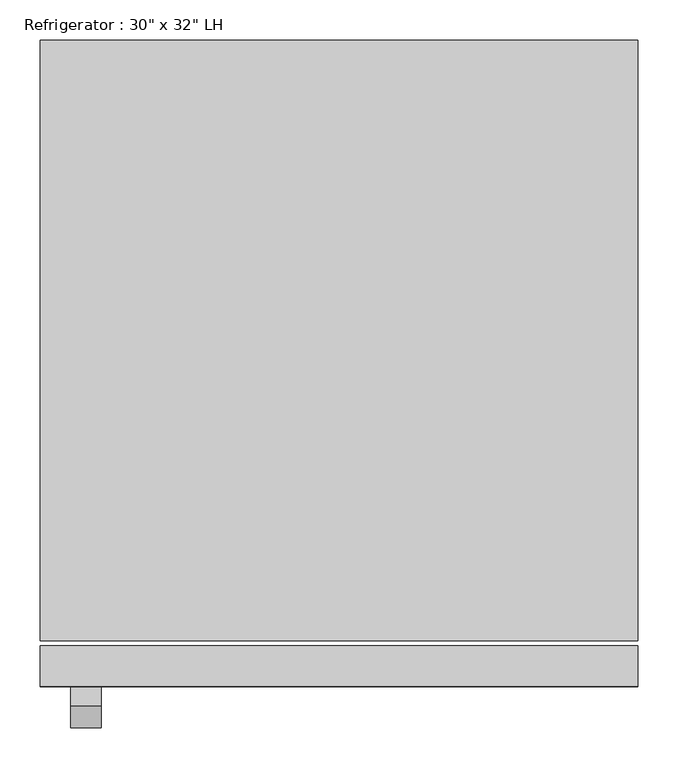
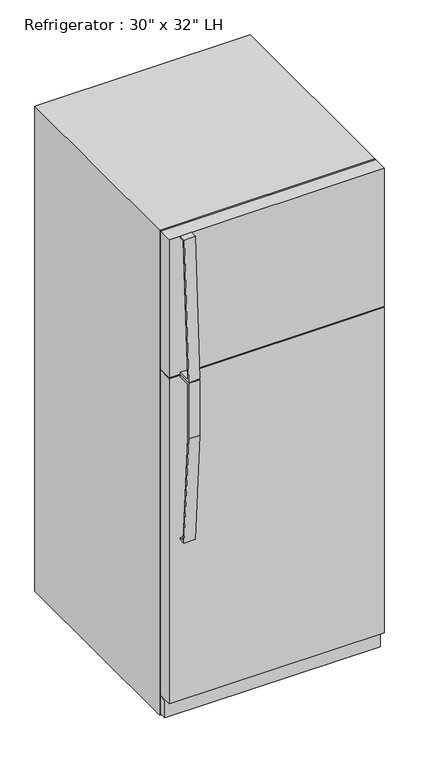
"""IFC4 building model written with IfcOpenShell, lengths in millimetres: proxy geometry."""

from ifc_helpers import new_model, si_unit, frame, origin, origin_with_axes, place, context, project, spatial, polyline, outline, extrude, source, transform, mapped, element, save


def proxy_94da6fa2(model_context):
    return source(origin(), model_context, "Body", "SweptSolid", [
        extrude(outline(polyline([(-417.9010285, 1262.0625), (-462.3510285, 1262.0625), (-462.3510285, 1065.4342469), (-434.8723987, 672.4715334), (-417.9010285, 672.4715334), (-417.9010285, 666.1370017), (-440.7949512, 666.1370017), (-468.7010285, 1065.2125), (-468.7010285, 1268.4125), (-417.9010285, 1268.4125), (-417.9010285, 1262.0625)])), frame((-334.9625, 0.0, 0.0), z_axis=(1.0, 0.0, 0.0), x_axis=(0.0, 1.0, 0.0)), (0.0, 0.0, 1.0), 38.4332978),
        extrude(outline(polyline([(-442.739413, 1778.0), (-418.6780855, 1778.0), (-418.6780855, 1771.65), (-437.5263449, 1771.65), (-463.4007207, 1277.9375), (-418.6780855, 1277.9375), (-418.6780855, 1271.5875), (-469.2793675, 1271.5875), (-442.739413, 1778.0)])), frame((-334.9625, 0.0, 0.0), z_axis=(1.0, 0.0, 0.0), x_axis=(0.0, 1.0, 0.0)), (0.0, 0.0, 1.0), 38.4332978),
        extrude(outline(polyline([(373.0625, -367.1010285), (373.0625, -392.5010285), (-373.0625, -392.5010285), (-373.0625, -367.1010285), (373.0625, -367.1010285)])), frame((0.0, 0.0, 9.3816357), z_axis=(0.0, 0.0, 1.0), x_axis=(1.0, 0.0, 0.0)), (0.0, 0.0, 1.0), 63.5),
        extrude(outline(polyline([(373.0625, -367.1010285), (373.0625, -417.9010285), (-373.0625, -417.9010285), (-373.0625, -367.1010285), (373.0625, -367.1010285)])), frame((0.0, 0.0, 76.2), z_axis=(0.0, 0.0, 1.0), x_axis=(1.0, 0.0, 0.0)), (0.0, 0.0, 1.0), 1192.2125),
        extrude(outline(polyline([(373.0625, -367.1010285), (373.0625, -417.9010285), (-373.0625, -417.9010285), (-373.0625, -367.1010285), (373.0625, -367.1010285)])), frame((0.0, 0.0, 1271.5875), z_axis=(0.0, 0.0, 1.0), x_axis=(1.0, 0.0, 0.0)), (0.0, 0.0, 1.0), 506.4125),
        extrude(outline(polyline([(373.0625, 388.5489715), (373.0625, -360.7510285), (-373.0625, -360.7510285), (-373.0625, 388.5489715), (373.0625, 388.5489715)])), origin_with_axes(), (0.0, 0.0, 1.0), 1778.0),
    ])


if __name__ == "__main__":
    model = new_model("IFC4")
    model_context = context("Model", 3, world=origin())
    ifc_project = project(units=[si_unit("LENGTHUNIT", "METRE", prefix="MILLI")], contexts=[model_context])
    site = spatial("IfcSite", under=ifc_project)
    building = spatial("IfcBuilding", under=site)
    placement = place(None, origin())
    proxy_shape = proxy_94da6fa2(model_context)
    element("IfcBuildingElementProxy", 1, Name="Refrigerator : 30\" x 32\" LH", ObjectType="Refrigerator : 30\" x 32\" LH", at=placement, inside=building, context=model_context, shape_type="MappedRepresentation", body=[
        mapped(proxy_shape, transform((0.0, 0.0, 0.0), x_axis=(1.0, 0.0, 0.0), y_axis=(0.0, 1.0, 0.0), z_axis=(0.0, 0.0, 1.0))),
    ])
    save(model, "model.ifc")
